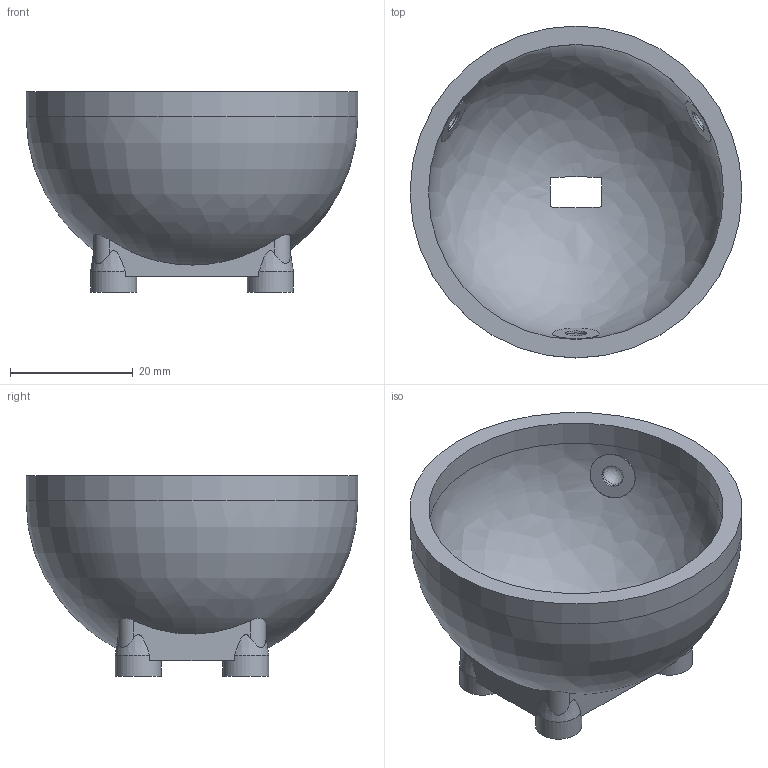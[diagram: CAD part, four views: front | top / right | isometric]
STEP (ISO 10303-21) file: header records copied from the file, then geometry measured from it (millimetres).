
FILE_DESCRIPTION(('Open CASCADE Model'),'2;1');
FILE_NAME('Open CASCADE Shape Model','2026-05-31T19:43:30',('Author'),( 'Open CASCADE'),'Open CASCADE STEP processor 7.6','Open CASCADE 7.6' ,'Unknown');
FILE_SCHEMA(('AP242_MANAGED_MODEL_BASED_3D_ENGINEERING_MIM_LF. {1 0 10303 442 1 1 4 }'));
Length unit declared in the file: millimetre
Products named in the file (1): Open CASCADE STEP translator 7.6 21
Bounding box: 54 x 54 x 32.6 mm (x, y, z)
Volume: 15512.9 mm3; surface area: 10946.6 mm2
Topology: 1 solids, 1 shells, 65 faces, 155 edges, 103 vertices
Faces by surface type: cylinder 27, plane 22, revolution 8, bspline 4, cone 4
Full cylindrical faces by diameter (mm): 3.5 x4, 3.57 x3, 3.572 x3, 7.5 x4, 7.57 x3, 48 x1, 54 x1
Entity records: 8307 total; most frequent: CARTESIAN_POINT 5276, DIRECTION 537, ORIENTED_EDGE 304, PCURVE 304, DEFINITIONAL_REPRESENTATION 304, LINE 251, VECTOR 251, EDGE_CURVE 152
